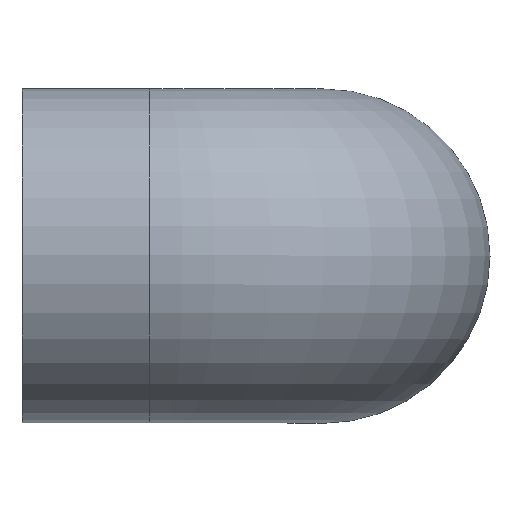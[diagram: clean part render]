
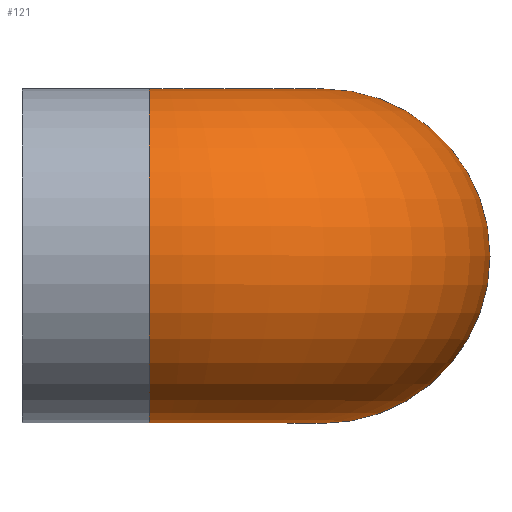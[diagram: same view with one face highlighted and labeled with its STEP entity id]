
A CAD part, top view. The second image highlights one B-rep face of the part: STEP entity #121.
In plain terms, the highlighted toroidal (fillet/blend) face has major radius 67.5 mm and minor radius 65 mm.
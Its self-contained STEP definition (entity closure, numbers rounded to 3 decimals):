
#29=FACE_BOUND('',#56,.T.);
#39=FACE_OUTER_BOUND('',#55,.T.);
#55=EDGE_LOOP('',(#105));
#56=EDGE_LOOP('',(#106));
#70=CIRCLE('',#140,65.);
#71=CIRCLE('',#142,65.);
#80=VERTEX_POINT('',#210);
#81=VERTEX_POINT('',#213);
#90=EDGE_CURVE('',#80,#80,#70,.T.);
#91=EDGE_CURVE('',#81,#81,#71,.T.);
#105=ORIENTED_EDGE('',*,*,#90,.F.);
#106=ORIENTED_EDGE('',*,*,#91,.T.);
#114=TOROIDAL_SURFACE('',#141,67.5,65.);
#121=ADVANCED_FACE('',(#39,#29),#114,.T.);
#140=AXIS2_PLACEMENT_3D('',#211,#175,#176);
#141=AXIS2_PLACEMENT_3D('',#212,#177,#178);
#142=AXIS2_PLACEMENT_3D('',#214,#179,#180);
#175=DIRECTION('center_axis',(-1.,0.,0.));
#176=DIRECTION('ref_axis',(0.,0.,-1.));
#177=DIRECTION('center_axis',(0.,-1.,0.));
#178=DIRECTION('ref_axis',(0.,0.,-1.));
#179=DIRECTION('center_axis',(0.,0.,1.));
#180=DIRECTION('ref_axis',(-1.,0.,0.));
#210=CARTESIAN_POINT('',(-67.5,0.,182.));
#211=CARTESIAN_POINT('Origin',(-67.5,0.,117.));
#212=CARTESIAN_POINT('Origin',(-67.5,0.,49.5));
#213=CARTESIAN_POINT('',(65.,0.,49.5));
#214=CARTESIAN_POINT('Origin',(0.,0.,49.5));
